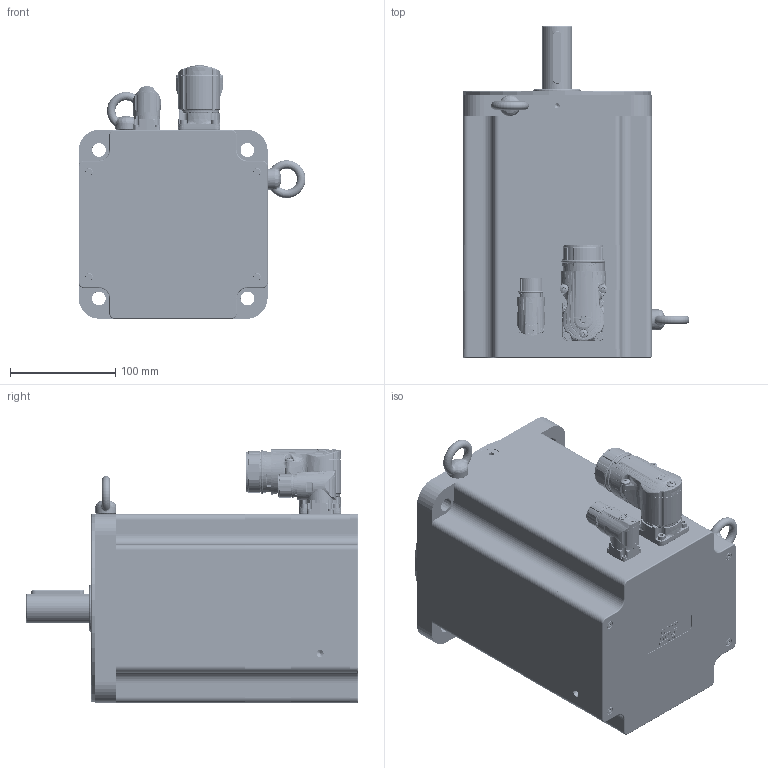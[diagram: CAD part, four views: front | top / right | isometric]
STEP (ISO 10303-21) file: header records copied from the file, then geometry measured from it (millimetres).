
FILE_DESCRIPTION(/* description */ ('Unknown'),/* implementation_level */ '2;1');
FILE_NAME(/* name */ 'TC4-180.7C.X X.X.3.XX.1.X.G3.00.00 Q0B809',/* time_stamp */ '2026-03-10T15:03:09+01:00',/* author */ ('Unknown'),/* organization */ ('Unknown'),/* preprocessor_version */ 'ST-DEVELOPER v19.4',/* originating_system */ 'Solid Edge',/* authorisation */ 'Unknown');
FILE_SCHEMA (('AP203_CONFIGURATION_CONTROLLED_3D_DESIGN_OF_MECHANICAL_PARTS_AND_ASSEMBLIES_MIM_LF { 1 0 10303 203 3 1 4 }','AUTOMOTIVE_DESIGN {1 0 10303 214 3 1 1}'));
Products named in the file (18): Q0B809 7C FRENO VUOTO; 005256003057; 003003199970; 003103040231; 003155002231; Coperchio campana TC4-180; 005113000610; 005119001104; 005911000205; 007117000452; 005911000185; 005911000479; 005321000010; 005008000953_oa_0; 005911000180; 003251040631; 007117000454; Corpo TC4-180 7C
Assembly tree (34 placements, depth 2):
  Q0B809 7C FRENO VUOTO
    005256003057
    003003199970
    003103040231
    003155002231
    Coperchio campana TC4-180
    005113000610
    005119001104
    005911000205  x4
    007117000452
    005911000185  x4
    005911000479  x8
    005321000010  x2
    005008000953_oa_0
    005911000180  x4
    003251040631
    007117000454
    Corpo TC4-180 7C
Bounding box: 215.97 x 316 x 241.45 mm (x, y, z)
Volume: 3337803.6 mm3; surface area: 828860.6 mm2
Topology: 35 solids, 62 shells, 3641 faces, 9379 edges, 5911 vertices
Faces by surface type: plane 1299, cylinder 879, bspline 636, cone 376, torus 317, sphere 134
Full cylindrical faces by diameter (mm): 0.5 x1, 1 x17, 1.2 x17, 2 x4, 2.013 x8, 2.5 x4, 3 x5, 3.242 x16, 3.6 x5, 4 x12, 4.134 x16, 4.2 x8, 4.5 x9, 4.7 x4, 4.917 x8, 5 x8, 5.4 x1, 5.5 x9, 5.9 x1, 6.647 x14, 7 x10, 8 x11, 8.376 x2, 9 x4, 10 x3, 14 x4, 15.2 x1, 16 x1, 17.4 x2, 18 x1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
Entity records: 160071 total; most frequent: CARTESIAN_POINT 63696, ORIENTED_EDGE 15738, DIRECTION 14210, EDGE_CURVE 8077, AXIS2_PLACEMENT_3D 5560, VERTEX_POINT 5412, FACE_BOUND 4246, EDGE_LOOP 4216
